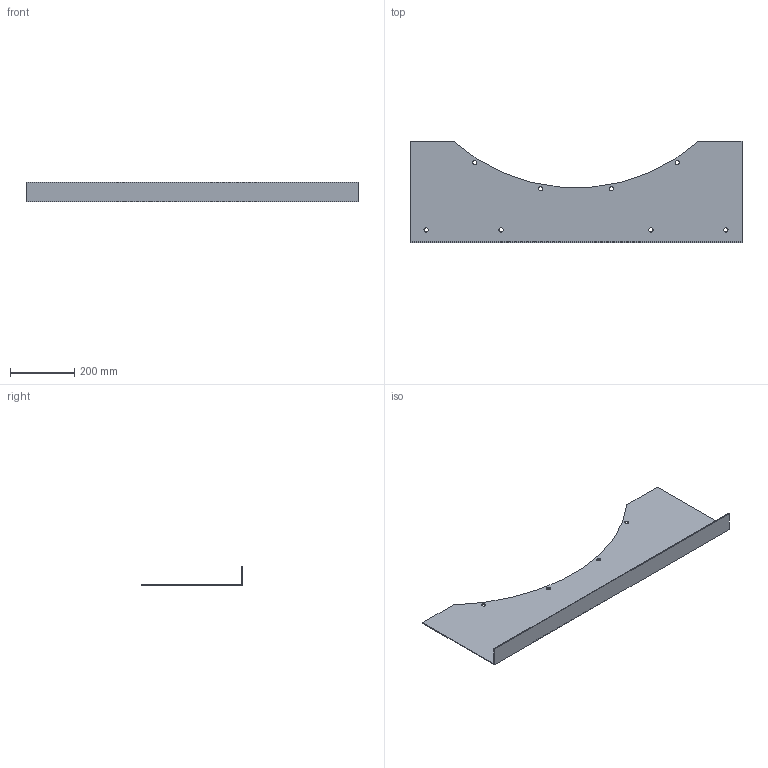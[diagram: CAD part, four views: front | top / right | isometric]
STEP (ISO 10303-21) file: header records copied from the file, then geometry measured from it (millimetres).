
FILE_DESCRIPTION(('STEP AP214'),'1');
FILE_NAME('accessory_5138902400.stp','2017-10-09T07:39:09',('TraceParts'),('TraceParts S.A.'),'Spatial InterOp 3D',' ',' ');
FILE_SCHEMA(('automotive_design'));
Length unit declared in the file: millimetre
Products named in the file (1): accessory_5138902400
Bounding box: 1032 x 316 x 60 mm (x, y, z)
Volume: 924164.8 mm3; surface area: 625734.6 mm2
Topology: 1 solids, 1 shells, 26 faces, 72 edges, 48 vertices
Faces by surface type: cylinder 17, plane 9
Entity records: 1106 total; most frequent: DIRECTION 160, CARTESIAN_POINT 147, ORIENTED_EDGE 144, EDGE_CURVE 72, AXIS2_PLACEMENT_3D 61, VERTEX_POINT 48, EDGE_LOOP 42, LINE 38
